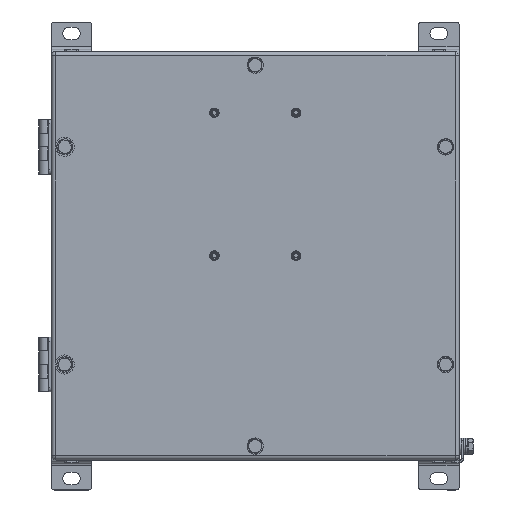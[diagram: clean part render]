
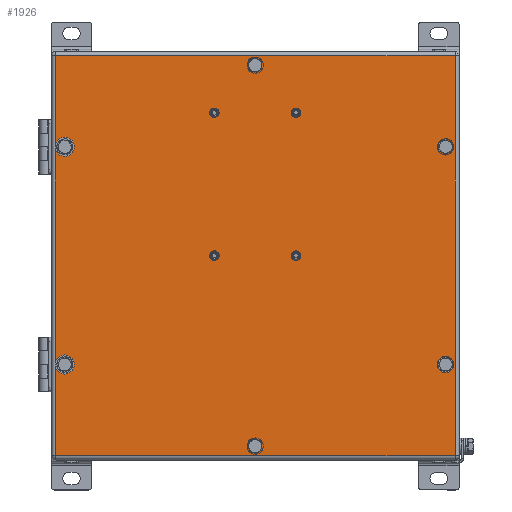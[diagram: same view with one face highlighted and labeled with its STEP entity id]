
A CAD part, top view. The second image highlights one B-rep face of the part: STEP entity #1926.
In plain terms, the highlighted planar face has unit normal (0, 0, 1).
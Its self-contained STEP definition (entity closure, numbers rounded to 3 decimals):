
#1378=CARTESIAN_POINT('',(147.,-147.0,120.));
#1379=VERTEX_POINT('',#1378);
#1445=CARTESIAN_POINT('',(147.0,147.,120.));
#1446=VERTEX_POINT('',#1445);
#1512=CARTESIAN_POINT('',(-147.,-147.0,120.));
#1513=VERTEX_POINT('',#1512);
#1585=CARTESIAN_POINT('',(147.,-147.0,120.));
#1586=DIRECTION('',(-1.0,0.0,0.0));
#1587=VECTOR('',#1586,294.);
#1588=LINE('',#1585,#1587);
#1589=EDGE_CURVE('',#1379,#1513,#1588,.T.);
#1601=CARTESIAN_POINT('',(-147.,147.,120.));
#1602=VERTEX_POINT('',#1601);
#1674=CARTESIAN_POINT('',(-147.,-147.0,120.));
#1675=DIRECTION('',(0.0,1.0,0.0));
#1676=VECTOR('',#1675,294.0);
#1677=LINE('',#1674,#1676);
#1678=EDGE_CURVE('',#1513,#1602,#1677,.T.);
#1696=CARTESIAN_POINT('',(-147.0,147.,120.));
#1697=DIRECTION('',(1.0,0.0,0.0));
#1698=VECTOR('',#1697,294.0);
#1699=LINE('',#1696,#1698);
#1700=EDGE_CURVE('',#1602,#1446,#1699,.T.);
#1718=CARTESIAN_POINT('',(147.0,147.,120.));
#1719=DIRECTION('',(0.0,-1.0,0.0));
#1720=VECTOR('',#1719,294.0);
#1721=LINE('',#1718,#1720);
#1722=EDGE_CURVE('',#1446,#1379,#1721,.T.);
#1805=CARTESIAN_POINT('',(0.,0.,120.));
#1806=DIRECTION('',(0.0,0.0,1.0));
#1807=DIRECTION('',(1.0,0.0,0.0));
#1808=AXIS2_PLACEMENT_3D('',#1805,#1806,#1807);
#1809=PLANE('',#1808);
#1810=ORIENTED_EDGE('',*,*,#1589,.F.);
#1811=ORIENTED_EDGE('',*,*,#1722,.F.);
#1812=ORIENTED_EDGE('',*,*,#1700,.F.);
#1813=ORIENTED_EDGE('',*,*,#1678,.F.);
#1814=EDGE_LOOP('',(#1810,#1811,#1812,#1813));
#1815=FACE_OUTER_BOUND('',#1814,.T.);
#1816=CARTESIAN_POINT('',(-136.25,80.,120.));
#1817=VERTEX_POINT('',#1816);
#1818=CARTESIAN_POINT('',(-140.,80.,120.));
#1819=DIRECTION('',(0.0,0.0,-1.0));
#1820=DIRECTION('',(-1.0,0.0,0.0));
#1821=AXIS2_PLACEMENT_3D('',#1818,#1819,#1820);
#1822=CIRCLE('',#1821,3.75);
#1823=EDGE_CURVE('',#1817,#1817,#1822,.T.);
#1824=ORIENTED_EDGE('',*,*,#1823,.T.);
#1825=EDGE_LOOP('',(#1824));
#1826=FACE_BOUND('',#1825,.T.);
#1827=CARTESIAN_POINT('',(143.75,80.0,120.));
#1828=VERTEX_POINT('',#1827);
#1829=CARTESIAN_POINT('',(140.,80.0,120.));
#1830=DIRECTION('',(0.0,0.0,-1.0));
#1831=DIRECTION('',(-1.0,0.0,0.0));
#1832=AXIS2_PLACEMENT_3D('',#1829,#1830,#1831);
#1833=CIRCLE('',#1832,3.75);
#1834=EDGE_CURVE('',#1828,#1828,#1833,.T.);
#1835=ORIENTED_EDGE('',*,*,#1834,.T.);
#1836=EDGE_LOOP('',(#1835));
#1837=FACE_BOUND('',#1836,.T.);
#1838=CARTESIAN_POINT('',(-136.25,-80.,120.));
#1839=VERTEX_POINT('',#1838);
#1840=CARTESIAN_POINT('',(-140.,-80.,120.));
#1841=DIRECTION('',(0.0,0.0,-1.0));
#1842=DIRECTION('',(-1.0,0.0,0.0));
#1843=AXIS2_PLACEMENT_3D('',#1840,#1841,#1842);
#1844=CIRCLE('',#1843,3.75);
#1845=EDGE_CURVE('',#1839,#1839,#1844,.T.);
#1846=ORIENTED_EDGE('',*,*,#1845,.T.);
#1847=EDGE_LOOP('',(#1846));
#1848=FACE_BOUND('',#1847,.T.);
#1849=CARTESIAN_POINT('',(143.75,-80.0,120.));
#1850=VERTEX_POINT('',#1849);
#1851=CARTESIAN_POINT('',(140.,-80.0,120.));
#1852=DIRECTION('',(0.0,0.0,-1.0));
#1853=DIRECTION('',(-1.0,0.0,0.0));
#1854=AXIS2_PLACEMENT_3D('',#1851,#1852,#1853);
#1855=CIRCLE('',#1854,3.75);
#1856=EDGE_CURVE('',#1850,#1850,#1855,.T.);
#1857=ORIENTED_EDGE('',*,*,#1856,.T.);
#1858=EDGE_LOOP('',(#1857));
#1859=FACE_BOUND('',#1858,.T.);
#1860=CARTESIAN_POINT('',(3.75,140.,120.));
#1861=VERTEX_POINT('',#1860);
#1862=CARTESIAN_POINT('',(0.,140.,120.));
#1863=DIRECTION('',(0.0,0.0,-1.0));
#1864=DIRECTION('',(-1.0,0.0,0.0));
#1865=AXIS2_PLACEMENT_3D('',#1862,#1863,#1864);
#1866=CIRCLE('',#1865,3.75);
#1867=EDGE_CURVE('',#1861,#1861,#1866,.T.);
#1868=ORIENTED_EDGE('',*,*,#1867,.T.);
#1869=EDGE_LOOP('',(#1868));
#1870=FACE_BOUND('',#1869,.T.);
#1871=CARTESIAN_POINT('',(3.75,-140.,120.));
#1872=VERTEX_POINT('',#1871);
#1873=CARTESIAN_POINT('',(0.,-140.,120.));
#1874=DIRECTION('',(0.0,0.0,-1.0));
#1875=DIRECTION('',(-1.0,0.0,0.0));
#1876=AXIS2_PLACEMENT_3D('',#1873,#1874,#1875);
#1877=CIRCLE('',#1876,3.75);
#1878=EDGE_CURVE('',#1872,#1872,#1877,.T.);
#1879=ORIENTED_EDGE('',*,*,#1878,.T.);
#1880=EDGE_LOOP('',(#1879));
#1881=FACE_BOUND('',#1880,.T.);
#1882=CARTESIAN_POINT('',(33.05,105.,120.));
#1883=VERTEX_POINT('',#1882);
#1884=CARTESIAN_POINT('',(30.,105.,120.));
#1885=DIRECTION('',(0.0,0.0,-1.0));
#1886=DIRECTION('',(-1.0,0.0,0.0));
#1887=AXIS2_PLACEMENT_3D('',#1884,#1885,#1886);
#1888=CIRCLE('',#1887,3.05);
#1889=EDGE_CURVE('',#1883,#1883,#1888,.T.);
#1890=ORIENTED_EDGE('',*,*,#1889,.T.);
#1891=EDGE_LOOP('',(#1890));
#1892=FACE_BOUND('',#1891,.T.);
#1893=CARTESIAN_POINT('',(-26.95,105.,120.));
#1894=VERTEX_POINT('',#1893);
#1895=CARTESIAN_POINT('',(-30.,105.,120.));
#1896=DIRECTION('',(0.0,0.0,-1.0));
#1897=DIRECTION('',(-1.0,0.0,0.0));
#1898=AXIS2_PLACEMENT_3D('',#1895,#1896,#1897);
#1899=CIRCLE('',#1898,3.05);
#1900=EDGE_CURVE('',#1894,#1894,#1899,.T.);
#1901=ORIENTED_EDGE('',*,*,#1900,.T.);
#1902=EDGE_LOOP('',(#1901));
#1903=FACE_BOUND('',#1902,.T.);
#1904=CARTESIAN_POINT('',(-26.95,0.,120.));
#1905=VERTEX_POINT('',#1904);
#1906=CARTESIAN_POINT('',(-30.,0.,120.));
#1907=DIRECTION('',(0.0,0.0,-1.0));
#1908=DIRECTION('',(-1.0,0.0,0.0));
#1909=AXIS2_PLACEMENT_3D('',#1906,#1907,#1908);
#1910=CIRCLE('',#1909,3.05);
#1911=EDGE_CURVE('',#1905,#1905,#1910,.T.);
#1912=ORIENTED_EDGE('',*,*,#1911,.T.);
#1913=EDGE_LOOP('',(#1912));
#1914=FACE_BOUND('',#1913,.T.);
#1915=CARTESIAN_POINT('',(33.05,0.,120.));
#1916=VERTEX_POINT('',#1915);
#1917=CARTESIAN_POINT('',(30.,0.,120.));
#1918=DIRECTION('',(0.0,0.0,-1.0));
#1919=DIRECTION('',(-1.0,0.0,0.0));
#1920=AXIS2_PLACEMENT_3D('',#1917,#1918,#1919);
#1921=CIRCLE('',#1920,3.05);
#1922=EDGE_CURVE('',#1916,#1916,#1921,.T.);
#1923=ORIENTED_EDGE('',*,*,#1922,.T.);
#1924=EDGE_LOOP('',(#1923));
#1925=FACE_BOUND('',#1924,.T.);
#1926=ADVANCED_FACE('',(#1815,#1826,#1837,#1848,#1859,#1870,#1881,#1892,#1903,#1914,#1925),#1809,.T.);
